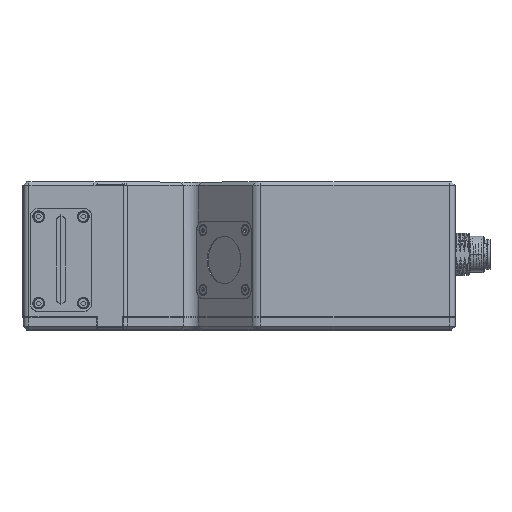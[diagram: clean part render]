
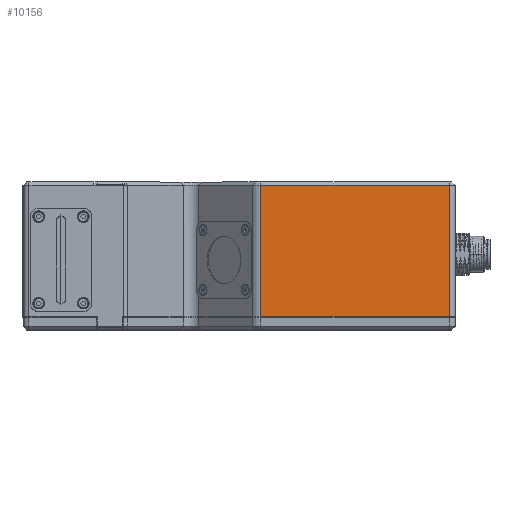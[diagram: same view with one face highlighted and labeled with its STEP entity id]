
A CAD part, top view. The second image highlights one B-rep face of the part: STEP entity #10156.
In plain terms, the highlighted planar face has unit normal (0, 0, 1).
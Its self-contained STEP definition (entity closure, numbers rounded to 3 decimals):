
#4769=DIRECTION('',(1.,0.,0.));
#4770=VECTOR('',#4769,67.843);
#4771=CARTESIAN_POINT('',(7.907,4.6,50.25));
#4772=LINE('',#4771,#4770);
#6450=DIRECTION('',(0.,1.,0.));
#6451=VECTOR('',#6450,47.2);
#6452=CARTESIAN_POINT('',(75.75,4.6,50.25));
#6453=LINE('',#6452,#6451);
#6454=DIRECTION('',(1.,0.,0.));
#6455=VECTOR('',#6454,67.843);
#6456=CARTESIAN_POINT('',(7.907,51.8,50.25));
#6457=LINE('',#6456,#6455);
#6475=DIRECTION('',(0.,-1.,0.));
#6476=VECTOR('',#6475,47.2);
#6477=CARTESIAN_POINT('',(7.907,51.8,50.25));
#6478=LINE('',#6477,#6476);
#7579=CARTESIAN_POINT('',(7.907,51.8,50.25));
#7580=CARTESIAN_POINT('',(75.75,51.8,50.25));
#7581=VERTEX_POINT('',#7579);
#7582=VERTEX_POINT('',#7580);
#7583=CARTESIAN_POINT('',(75.75,4.6,50.25));
#7584=VERTEX_POINT('',#7583);
#7585=CARTESIAN_POINT('',(7.907,4.6,50.25));
#7586=VERTEX_POINT('',#7585);
#10143=CARTESIAN_POINT('',(77.75,53.,50.25));
#10144=DIRECTION('',(0.,0.,1.));
#10145=DIRECTION('',(-1.,0.,0.));
#10146=AXIS2_PLACEMENT_3D('',#10143,#10144,#10145);
#10147=PLANE('',#10146);
#10149=ORIENTED_EDGE('',*,*,#10148,.T.);
#10150=ORIENTED_EDGE('',*,*,#10138,.F.);
#10151=ORIENTED_EDGE('',*,*,#9370,.F.);
#10153=ORIENTED_EDGE('',*,*,#10152,.F.);
#10154=EDGE_LOOP('',(#10149,#10150,#10151,#10153));
#10155=FACE_OUTER_BOUND('',#10154,.F.);
#10156=ADVANCED_FACE('',(#10155),#10147,.T.);
#9370=EDGE_CURVE('',#7586,#7584,#4772,.T.);
#10138=EDGE_CURVE('',#7584,#7582,#6453,.T.);
#10148=EDGE_CURVE('',#7581,#7582,#6457,.T.);
#10152=EDGE_CURVE('',#7581,#7586,#6478,.T.);
